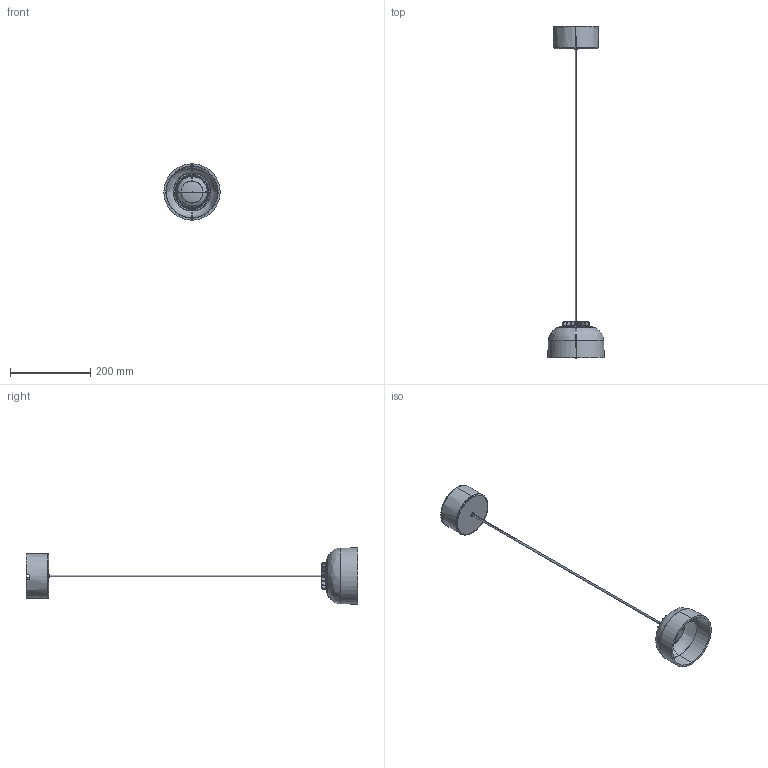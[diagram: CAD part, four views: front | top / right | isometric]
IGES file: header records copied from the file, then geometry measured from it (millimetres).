
Start section: SolidWorks IGES file using analytic representation for surfaces
Global section: file name: C:\SANTACOLE_PDM\Proyectos Catálogo\PROD-P13-003 -- CÁPSULA HEAD LED\6_Técnico comercial\3D\Bowl\HeadHat Bowl S.IGS; native system: SolidWorks 2019; preprocessor: SolidWorks 2019; author: aina.morell; date: 200406.174530; units: millimetre
Bounding box: 140 x 826.09 x 140 mm (x, y, z)
Surface area: 211933 mm2 (no closed solid volume)
Topology: 0 solids, 0 shells, 1720 faces, 19316 edges, 19301 vertices
Faces by surface type: bspline 1465, revolution 255
